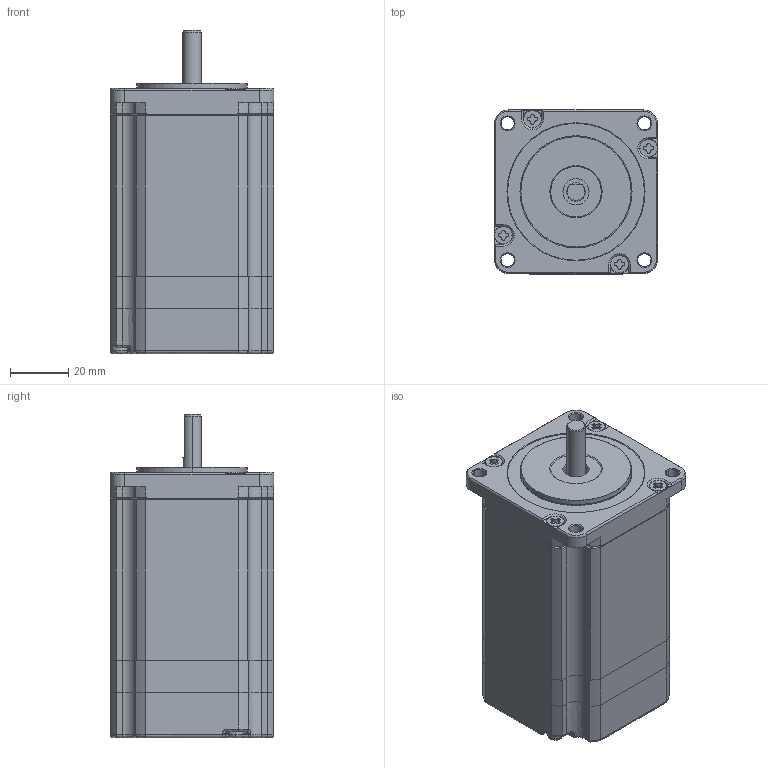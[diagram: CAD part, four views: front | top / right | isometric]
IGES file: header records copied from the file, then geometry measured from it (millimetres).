
Start section: SolidWorks IGES file using analytic representation for surfaces
Global section: file name: \\192.168.10.221\kari\7677\ステップ\PMSB-B56D5E\PMSB-B56D5E.IGS; native system: SolidWorks 2009; preprocessor: SolidWorks 2009; author: 3dcad; date: 110331.160653; units: millimetre
Bounding box: 56.4 x 56.4 x 111.5 mm (x, y, z)
Volume: 122783 mm3; surface area: 88582.4 mm2
Topology: 29 solids, 29 shells, 1567 faces, 4066 edges, 2549 vertices
Faces by surface type: revolution 835, plane 714, bspline 18
